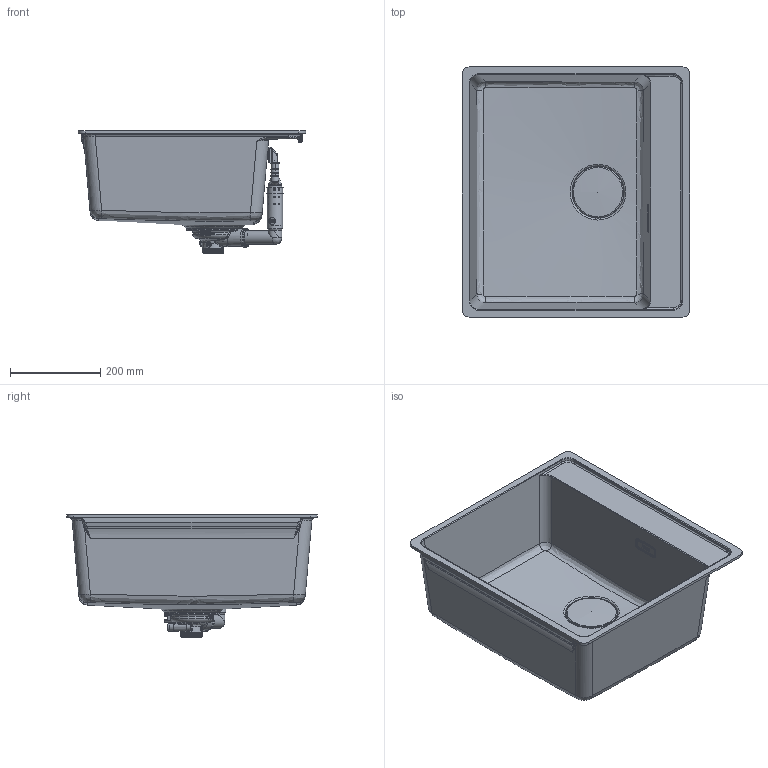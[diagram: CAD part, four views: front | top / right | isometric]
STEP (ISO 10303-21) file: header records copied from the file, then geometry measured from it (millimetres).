
FILE_DESCRIPTION(/* description */ ('UBG 610-56'),/* implementation_level */ '2;1');
FILE_NAME(/* name */ 'C:\Users\PS950\OneDrive - Franke Group\Maris Bowls MRG\Flushmount\MRG 210-52 TL\3D Data\MRG 210-52 TL.stp',/* time_stamp */ '2021-09-29T15:14:25+02:00',/* author */ ('PS950'),/* organization */ (''),/* preprocessor_version */ 'ST-DEVELOPER v18.1',/* originating_system */ 'Autodesk Inventor 2021',/* authorisation */ '');
FILE_SCHEMA (('AUTOMOTIVE_DESIGN { 1 0 10303 214 3 1 1 }'));
Length unit declared in the file: millimetre
Products named in the file (22): 0056-219306; Standard; NEW MARIS_V01; 0056-218666; 0056-202897; 0056-214469; 0056-203246; 0056-213999; 0056-127368; 0056-215850; 0056-215855; 0056-185732; 0056-214454; 0056-214010; 0056-135514; 0056-137629; 0056-142823; 0056-165491; 0056-161093; 0056-216002; 0056-216000; 0056-207145
Assembly tree (24 placements, depth 4):
  0056-219306
    Standard
      NEW MARIS_V01
    0056-218666
      0056-202897
      0056-214469
      0056-203246
        0056-213999
        0056-127368
        0056-215850
        0056-215855
        0056-185732
        0056-214454
        0056-214010
    0056-135514
    0056-137629
    0056-142823
    0056-165491
    0056-161093
    0056-216002
      0056-216000
      0056-207145  x4
Bounding box: 503 x 553 x 271.19 mm (x, y, z)
Volume: 4407690.7 mm3; surface area: 1372591.3 mm2
Topology: 20 solids, 20 shells, 5111 faces, 13581 edges, 8696 vertices
Faces by surface type: plane 2667, bspline 1144, cylinder 669, torus 347, cone 221, sphere 63
Full cylindrical faces by diameter (mm): 3.242 x1, 4 x1, 4.5 x1, 4.7 x1, 4.85 x1, 5.2 x1, 5.25 x1, 5.85 x2, 6 x4, 6.01 x1, 6.2 x1, 8 x2, 8.25 x1, 11.003 x8, 12 x1, 12.5 x9, 12.6 x1, 13.743 x1, 14.3 x1, 16.941 x1, 22 x1, 26 x1, 27 x1, 28 x2, 30 x7, 33 x2, 33.75 x1, 34 x2, 36.5 x1, 39 x2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
Entity records: 183427 total; most frequent: CARTESIAN_POINT 67429, ORIENTED_EDGE 25960, DIRECTION 20595, EDGE_CURVE 12980, VERTEX_POINT 8384, LINE 7601, VECTOR 7601, AXIS2_PLACEMENT_3D 6497
